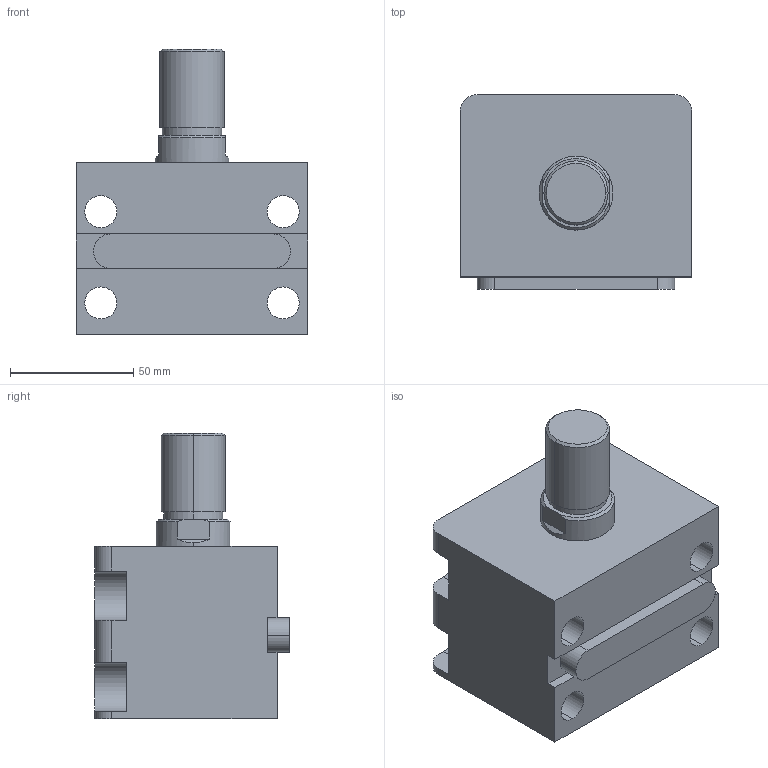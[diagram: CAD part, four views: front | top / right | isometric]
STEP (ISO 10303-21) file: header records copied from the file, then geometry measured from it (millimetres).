
FILE_DESCRIPTION (( 'STEP AP203' ), '1' );
FILE_NAME ('HTB-LA50-10W.STEP', '2019-10-09T07:06:50', ( '微软用户' ), ( '微软中国' ), 'SwSTEP 2.0', 'SolidWorks 2012', '' );
FILE_SCHEMA (( 'CONFIG_CONTROL_DESIGN' ));
Length unit declared in the file: millimetre
Products named in the file (4): HTB-LA50-10W活塞杆; HTB-LA50-瑩; HTB-LA50-10W; HTB-LA50-10掛极
Assembly tree (3 placements, depth 2):
  HTB-LA50-10W
    HTB-LA50-10掛极
    HTB-LA50-10W活塞杆
    HTB-LA50-瑩
Bounding box: 94 x 79 x 116 mm (x, y, z)
Volume: 450398.6 mm3; surface area: 77647.9 mm2
Topology: 3 solids, 3 shells, 90 faces, 219 edges, 144 vertices
Faces by surface type: plane 41, cylinder 37, cone 8, torus 4
Entity records: 3107 total; most frequent: DIRECTION 497, CARTESIAN_POINT 487, ORIENTED_EDGE 438, EDGE_CURVE 219, AXIS2_PLACEMENT_3D 190, VERTEX_POINT 144, VECTOR 117, LINE 117
